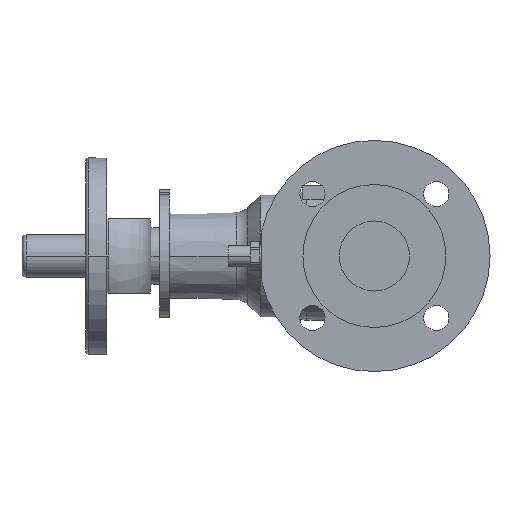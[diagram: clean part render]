
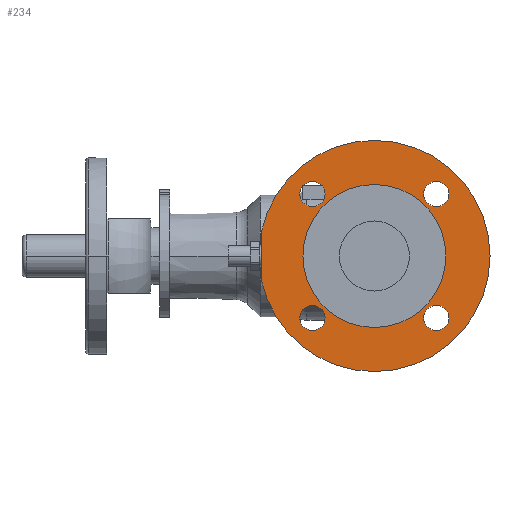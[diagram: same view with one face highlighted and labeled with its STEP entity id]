
A CAD part, left-side view. The second image highlights one B-rep face of the part: STEP entity #234.
In plain terms, the highlighted planar face has unit normal (-1, 0, 0).
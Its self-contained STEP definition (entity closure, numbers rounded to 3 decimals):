
#234 = ADVANCED_FACE( '', ( #590, #591, #592, #593, #594, #595 ), #596, .F. );
#590 = FACE_OUTER_BOUND( '', #965, .T. );
#591 = FACE_BOUND( '', #966, .T. );
#592 = FACE_BOUND( '', #967, .T. );
#593 = FACE_BOUND( '', #968, .T. );
#594 = FACE_BOUND( '', #969, .T. );
#595 = FACE_BOUND( '', #970, .T. );
#596 = PLANE( '', #971 );
#965 = EDGE_LOOP( '', ( #2301, #2302, #2303, #2304 ) );
#966 = EDGE_LOOP( '', ( #2305, #2306 ) );
#967 = EDGE_LOOP( '', ( #2307, #2308 ) );
#968 = EDGE_LOOP( '', ( #2309, #2310 ) );
#969 = EDGE_LOOP( '', ( #2311, #2312 ) );
#970 = EDGE_LOOP( '', ( #2313, #2314 ) );
#971 = AXIS2_PLACEMENT_3D( '', #2315, #2316, #2317 );
#2301 = ORIENTED_EDGE( '', *, *, #2818, .T. );
#2302 = ORIENTED_EDGE( '', *, *, #2827, .F. );
#2303 = ORIENTED_EDGE( '', *, *, #2408, .F. );
#2304 = ORIENTED_EDGE( '', *, *, #2405, .F. );
#2305 = ORIENTED_EDGE( '', *, *, #2828, .F. );
#2306 = ORIENTED_EDGE( '', *, *, #2424, .F. );
#2307 = ORIENTED_EDGE( '', *, *, #2829, .F. );
#2308 = ORIENTED_EDGE( '', *, *, #2420, .F. );
#2309 = ORIENTED_EDGE( '', *, *, #2830, .F. );
#2310 = ORIENTED_EDGE( '', *, *, #2416, .F. );
#2311 = ORIENTED_EDGE( '', *, *, #2831, .F. );
#2312 = ORIENTED_EDGE( '', *, *, #2412, .F. );
#2313 = ORIENTED_EDGE( '', *, *, #2832, .F. );
#2314 = ORIENTED_EDGE( '', *, *, #2399, .F. );
#2315 = CARTESIAN_POINT( '', ( 3.5, 0., 0. ) );
#2316 = DIRECTION( '', ( 1., 0., 0. ) );
#2317 = DIRECTION( '', ( 0., 0., -1. ) );
#2399 = EDGE_CURVE( '', #2848, #2851, #2852, .T. );
#2405 = EDGE_CURVE( '', #2861, #2856, #2863, .T. );
#2408 = EDGE_CURVE( '', #2856, #2865, #2868, .T. );
#2412 = EDGE_CURVE( '', #2874, #2870, #2876, .T. );
#2416 = EDGE_CURVE( '', #2882, #2878, #2884, .T. );
#2420 = EDGE_CURVE( '', #2890, #2886, #2892, .T. );
#2424 = EDGE_CURVE( '', #2898, #2894, #2900, .T. );
#2818 = EDGE_CURVE( '', #2861, #3554, #3557, .T. );
#2827 = EDGE_CURVE( '', #2865, #3554, #3569, .T. );
#2828 = EDGE_CURVE( '', #2894, #2898, #3570, .T. );
#2829 = EDGE_CURVE( '', #2886, #2890, #3571, .T. );
#2830 = EDGE_CURVE( '', #2878, #2882, #3572, .T. );
#2831 = EDGE_CURVE( '', #2870, #2874, #3573, .T. );
#2832 = EDGE_CURVE( '', #2851, #2848, #3574, .T. );
#2848 = VERTEX_POINT( '', #3592 );
#2851 = VERTEX_POINT( '', #3596 );
#2852 = CIRCLE( '', #3597, 51. );
#2856 = VERTEX_POINT( '', #3602 );
#2861 = VERTEX_POINT( '', #3608 );
#2863 = CIRCLE( '', #3611, 82.5 );
#2865 = VERTEX_POINT( '', #3613 );
#2868 = CIRCLE( '', #3617, 82.5 );
#2870 = VERTEX_POINT( '', #3619 );
#2874 = VERTEX_POINT( '', #3624 );
#2876 = CIRCLE( '', #3627, 9. );
#2878 = VERTEX_POINT( '', #3629 );
#2882 = VERTEX_POINT( '', #3634 );
#2884 = CIRCLE( '', #3637, 9. );
#2886 = VERTEX_POINT( '', #3639 );
#2890 = VERTEX_POINT( '', #3644 );
#2892 = CIRCLE( '', #3647, 9. );
#2894 = VERTEX_POINT( '', #3649 );
#2898 = VERTEX_POINT( '', #3654 );
#2900 = CIRCLE( '', #3657, 9. );
#3554 = VERTEX_POINT( '', #5649 );
#3557 = LINE( '', #5653, #5654 );
#3569 = CIRCLE( '', #5711, 82.5 );
#3570 = CIRCLE( '', #5712, 9. );
#3571 = CIRCLE( '', #5713, 9. );
#3572 = CIRCLE( '', #5714, 9. );
#3573 = CIRCLE( '', #5715, 9. );
#3574 = CIRCLE( '', #5716, 51. );
#3592 = CARTESIAN_POINT( '', ( 3.5, 51., 0. ) );
#3596 = CARTESIAN_POINT( '', ( 3.5, -51., 0. ) );
#3597 = AXIS2_PLACEMENT_3D( '', #5733, #5734, #5735 );
#3602 = CARTESIAN_POINT( '', ( 3.5, 0., 82.5 ) );
#3608 = CARTESIAN_POINT( '', ( 3.5, 80.733, 16.983 ) );
#3611 = AXIS2_PLACEMENT_3D( '', #5745, #5746, #5747 );
#3613 = CARTESIAN_POINT( '', ( 3.5, 0., -82.5 ) );
#3617 = AXIS2_PLACEMENT_3D( '', #5752, #5753, #5754 );
#3619 = CARTESIAN_POINT( '', ( 3.5, 44.194, -53.194 ) );
#3624 = CARTESIAN_POINT( '', ( 3.5, 44.194, -35.194 ) );
#3627 = AXIS2_PLACEMENT_3D( '', #5760, #5761, #5762 );
#3629 = CARTESIAN_POINT( '', ( 3.5, -44.194, -53.194 ) );
#3634 = CARTESIAN_POINT( '', ( 3.5, -44.194, -35.194 ) );
#3637 = AXIS2_PLACEMENT_3D( '', #5768, #5769, #5770 );
#3639 = CARTESIAN_POINT( '', ( 3.5, 44.194, 35.194 ) );
#3644 = CARTESIAN_POINT( '', ( 3.5, 44.194, 53.194 ) );
#3647 = AXIS2_PLACEMENT_3D( '', #5776, #5777, #5778 );
#3649 = CARTESIAN_POINT( '', ( 3.5, -44.194, 35.194 ) );
#3654 = CARTESIAN_POINT( '', ( 3.5, -44.194, 53.194 ) );
#3657 = AXIS2_PLACEMENT_3D( '', #5784, #5785, #5786 );
#5649 = CARTESIAN_POINT( '', ( 3.5, 80.733, -16.983 ) );
#5653 = CARTESIAN_POINT( '', ( 3.5, 80.733, 12.5 ) );
#5654 = VECTOR( '', #6549, 1. );
#5711 = AXIS2_PLACEMENT_3D( '', #6563, #6564, #6565 );
#5712 = AXIS2_PLACEMENT_3D( '', #6566, #6567, #6568 );
#5713 = AXIS2_PLACEMENT_3D( '', #6569, #6570, #6571 );
#5714 = AXIS2_PLACEMENT_3D( '', #6572, #6573, #6574 );
#5715 = AXIS2_PLACEMENT_3D( '', #6575, #6576, #6577 );
#5716 = AXIS2_PLACEMENT_3D( '', #6578, #6579, #6580 );
#5733 = CARTESIAN_POINT( '', ( 3.5, 0., 0. ) );
#5734 = DIRECTION( '', ( -1., 0., 0. ) );
#5735 = DIRECTION( '', ( 0., 1., 0. ) );
#5745 = CARTESIAN_POINT( '', ( 3.5, 0., 0. ) );
#5746 = DIRECTION( '', ( 1., 0., 0. ) );
#5747 = DIRECTION( '', ( 0., 0., -1. ) );
#5752 = CARTESIAN_POINT( '', ( 3.5, 0., 0. ) );
#5753 = DIRECTION( '', ( 1., 0., 0. ) );
#5754 = DIRECTION( '', ( 0., 0., -1. ) );
#5760 = CARTESIAN_POINT( '', ( 3.5, 44.194, -44.194 ) );
#5761 = DIRECTION( '', ( -1., 0., 0. ) );
#5762 = DIRECTION( '', ( 0., 0., -1. ) );
#5768 = CARTESIAN_POINT( '', ( 3.5, -44.194, -44.194 ) );
#5769 = DIRECTION( '', ( -1., 0., 0. ) );
#5770 = DIRECTION( '', ( 0., 0., -1. ) );
#5776 = CARTESIAN_POINT( '', ( 3.5, 44.194, 44.194 ) );
#5777 = DIRECTION( '', ( -1., 0., 0. ) );
#5778 = DIRECTION( '', ( 0., 0., -1. ) );
#5784 = CARTESIAN_POINT( '', ( 3.5, -44.194, 44.194 ) );
#5785 = DIRECTION( '', ( -1., 0., 0. ) );
#5786 = DIRECTION( '', ( 0., 0., -1. ) );
#6549 = DIRECTION( '', ( 0., 0., -1. ) );
#6563 = CARTESIAN_POINT( '', ( 3.5, 0., 0. ) );
#6564 = DIRECTION( '', ( 1., 0., 0. ) );
#6565 = DIRECTION( '', ( 0., 0., -1. ) );
#6566 = CARTESIAN_POINT( '', ( 3.5, -44.194, 44.194 ) );
#6567 = DIRECTION( '', ( -1., 0., 0. ) );
#6568 = DIRECTION( '', ( 0., 0., -1. ) );
#6569 = CARTESIAN_POINT( '', ( 3.5, 44.194, 44.194 ) );
#6570 = DIRECTION( '', ( -1., 0., 0. ) );
#6571 = DIRECTION( '', ( 0., 0., -1. ) );
#6572 = CARTESIAN_POINT( '', ( 3.5, -44.194, -44.194 ) );
#6573 = DIRECTION( '', ( -1., 0., 0. ) );
#6574 = DIRECTION( '', ( 0., 0., -1. ) );
#6575 = CARTESIAN_POINT( '', ( 3.5, 44.194, -44.194 ) );
#6576 = DIRECTION( '', ( -1., 0., 0. ) );
#6577 = DIRECTION( '', ( 0., 0., -1. ) );
#6578 = CARTESIAN_POINT( '', ( 3.5, 0., 0. ) );
#6579 = DIRECTION( '', ( -1., 0., 0. ) );
#6580 = DIRECTION( '', ( 0., 1., 0. ) );
